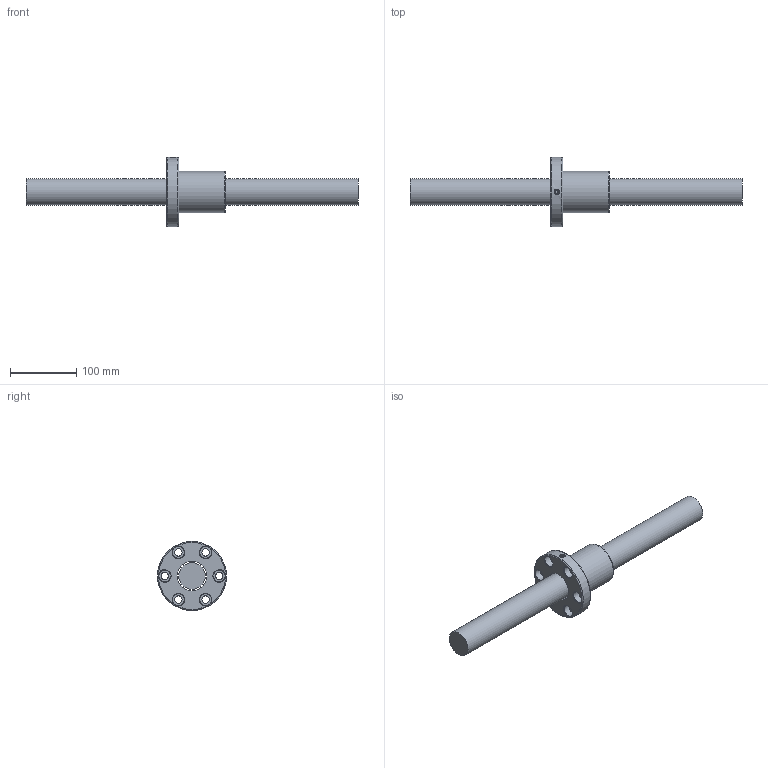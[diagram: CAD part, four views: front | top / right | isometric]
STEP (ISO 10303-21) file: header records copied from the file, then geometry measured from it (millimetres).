
FILE_DESCRIPTION (( 'STEP AP203' ), '1' );
FILE_NAME ('SFNI04010N-4.step', '2024-05-16T01:22:14', ( '' ), ( '' ), 'SwSTEP 2.0', 'SolidWorks 2022', '' );
FILE_SCHEMA (( 'CONFIG_CONTROL_DESIGN' ));
Length unit declared in the file: millimetre
Products named in the file (1): SFNI04010N-4
Bounding box: 500 x 104 x 104 mm (x, y, z)
Volume: 837289.8 mm3; surface area: 114658.6 mm2
Topology: 2 solids, 2 shells, 57 faces, 143 edges, 90 vertices
Faces by surface type: cylinder 24, cone 13, plane 12, bspline 5, torus 3
Full cylindrical faces by diameter (mm): 4 x1, 7 x6, 11 x6, 17.5 x6, 40 x1, 44.1 x1, 62 x1, 104 x1
Entity records: 3106 total; most frequent: CARTESIAN_POINT 2055, DIRECTION 206, ORIENTED_EDGE 148, EDGE_LOOP 102, AXIS2_PLACEMENT_3D 101, EDGE_CURVE 74, FACE_OUTER_BOUND 72, VERTEX_POINT 64
